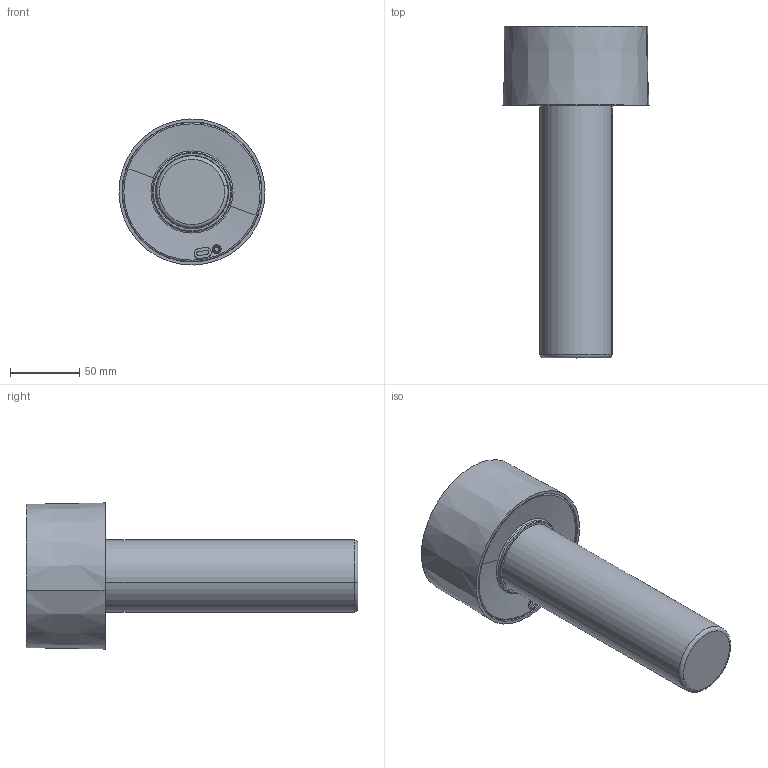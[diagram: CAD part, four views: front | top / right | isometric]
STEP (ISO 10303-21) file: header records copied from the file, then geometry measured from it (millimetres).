
FILE_DESCRIPTION (( 'STEP AP214' ), '1' );
FILE_NAME ('326_STD_T_LD_3D.STEP', '2023-07-21T07:41:07', ( '' ), ( '' ), 'SwSTEP 2.0', 'SolidWorks 2023', '' );
FILE_SCHEMA (( 'AUTOMOTIVE_DESIGN' ));
Length unit declared in the file: millimetre
Products named in the file (1): 326_STD_T_LD_3D
Bounding box: 105.45 x 239.5 x 105.45 mm (x, y, z)
Volume: 171342.7 mm3; surface area: 145723.9 mm2
Topology: 3 solids, 3 shells, 175 faces, 436 edges, 274 vertices
Faces by surface type: cone 61, plane 44, torus 31, cylinder 29, bspline 10
Entity records: 6298 total; most frequent: CARTESIAN_POINT 2092, DIRECTION 911, ORIENTED_EDGE 872, EDGE_CURVE 436, AXIS2_PLACEMENT_3D 399, VERTEX_POINT 274, CIRCLE 233, EDGE_LOOP 186
